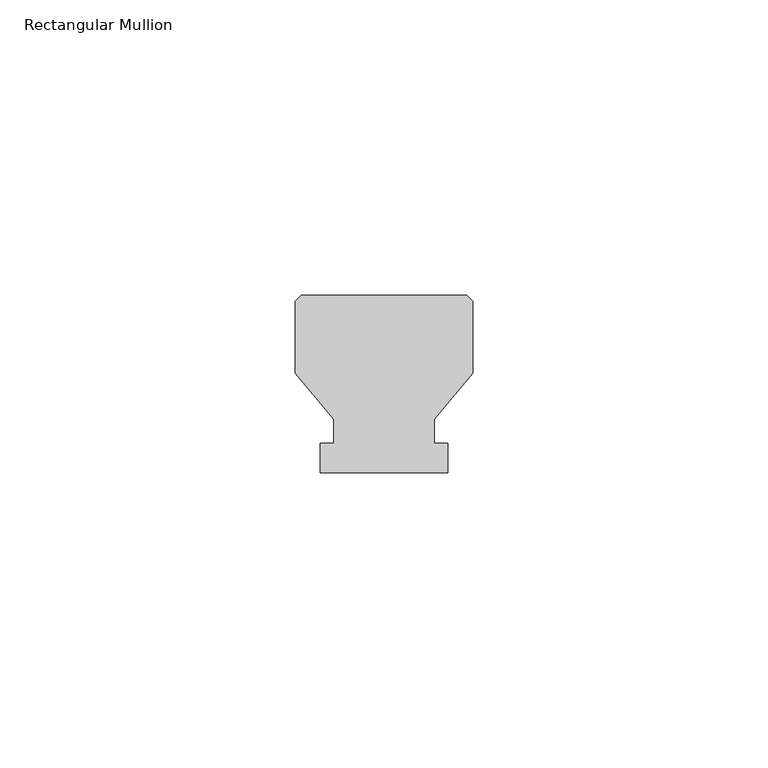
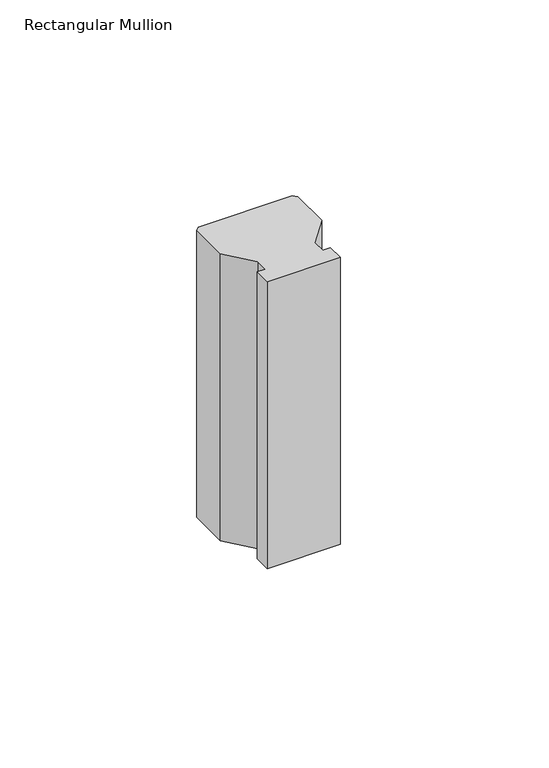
"""IFC4 building model written with IfcOpenShell, lengths in millimetres: member geometry, Rectangular Mullion : Batten_Timber_Modinex_Austratus_Grid_Fin_30x30_Hemlock."""

from ifc_helpers import new_model, si_unit, frame, origin, place, context, project, spatial, polyline, outline, extrude, source, transform, mapped, element, save


def rectangular_mullion_e8bb6713(model_context):
    return source(origin(), model_context, "Body", "SweptSolid", [
        extrude(outline(polyline([(-15.0, 16.8079815), (-15.0, 29.0), (-14.0, 30.0), (14.0, 30.0), (15.0, 29.0), (15.0, 16.8079815), (8.5, 9.0), (8.5, 5.0), (10.812195, 5.0), (10.812195, 0.0), (-10.812195, 0.0), (-10.812195, 5.0), (-8.5, 5.0), (-8.5, 9.0), (-15.0, 16.8079815)])), frame((0.0, 0.0, -89.9999997), z_axis=(0.0, 0.0, 1.0), x_axis=(1.0, 0.0, 0.0)), (0.0, 0.0, 1.0), 89.9999997),
    ])


if __name__ == "__main__":
    model = new_model("IFC4")
    model_context = context("Model", 3, world=origin())
    ifc_project = project(units=[si_unit("LENGTHUNIT", "METRE", prefix="MILLI")], contexts=[model_context])
    site = spatial("IfcSite", under=ifc_project)
    building = spatial("IfcBuilding", under=site)
    placement = place(None, origin())
    rectangular_mullion_shape = rectangular_mullion_e8bb6713(model_context)
    element("IfcMember", 1, ObjectType="Rectangular Mullion : Batten_Timber_Modinex_Austratus_Grid_Fin_30x30_Hemlock", at=placement, inside=building, context=model_context, shape_type="MappedRepresentation", body=[
        mapped(rectangular_mullion_shape, transform((0.0, 0.0, 0.0), x_axis=(1.0, 0.0, 0.0), y_axis=(0.0, 1.0, 0.0), z_axis=(0.0, 0.0, 1.0))),
    ])
    save(model, "model.ifc")
